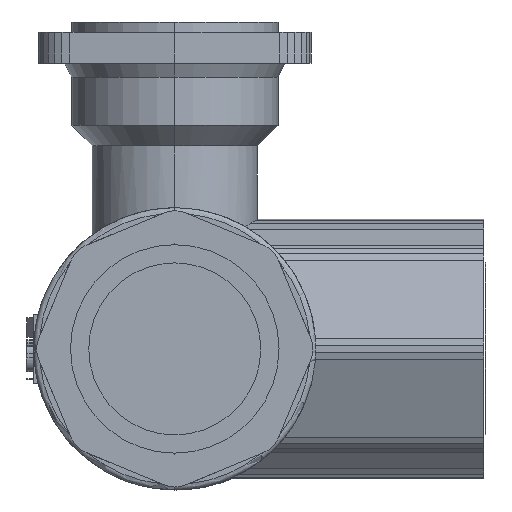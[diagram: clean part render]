
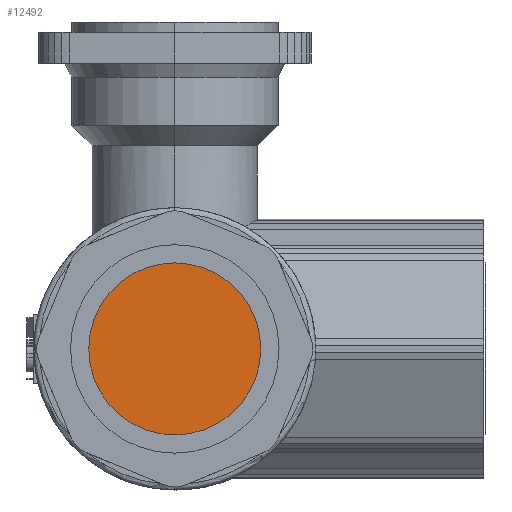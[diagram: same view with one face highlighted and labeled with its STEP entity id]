
A CAD part, left-side view. The second image highlights one B-rep face of the part: STEP entity #12492.
In plain terms, the highlighted planar face has unit normal (-1, 0, 0).
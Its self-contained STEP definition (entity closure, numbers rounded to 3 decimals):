
#5170=VERTEX_POINT('',#13794);
#7076=EDGE_CURVE('',#7186,#5170,#15867,.T.);
#7186=VERTEX_POINT('',#15986);
#10042=EDGE_CURVE('',#5170,#7186,#19109,.T.);
#12492=ADVANCED_FACE('',(#21818),#21819,.T.);
#13794=CARTESIAN_POINT('',(-44.7,-12.5,0.));
#15867=CIRCLE('',#26633,12.5);
#15986=CARTESIAN_POINT('',(-44.7,12.5,0.0));
#19109=CIRCLE('',#31463,12.5);
#21818=FACE_OUTER_BOUND('',#35434,.T.);
#21819=PLANE('',#35435);
#26633=AXIS2_PLACEMENT_3D('',#39138,#39139,#39140);
#31463=AXIS2_PLACEMENT_3D('',#42378,#42379,#42380);
#35434=EDGE_LOOP('',(#45678,#45679));
#35435=AXIS2_PLACEMENT_3D('',#45680,#45681,#45682);
#39138=CARTESIAN_POINT('',(-44.7,0.0,0.0));
#39139=DIRECTION('',(-1.0,0.0,0.0));
#39140=DIRECTION('',(0.0,1.0,0.0));
#42378=CARTESIAN_POINT('',(-44.7,0.0,0.0));
#42379=DIRECTION('',(-1.0,0.0,0.0));
#42380=DIRECTION('',(0.0,1.0,0.0));
#45678=ORIENTED_EDGE('',*,*,#7076,.T.);
#45679=ORIENTED_EDGE('',*,*,#10042,.T.);
#45680=CARTESIAN_POINT('',(-44.7,0.0,0.0));
#45681=DIRECTION('',(-1.0,0.0,0.0));
#45682=DIRECTION('',(0.0,1.0,0.0));
